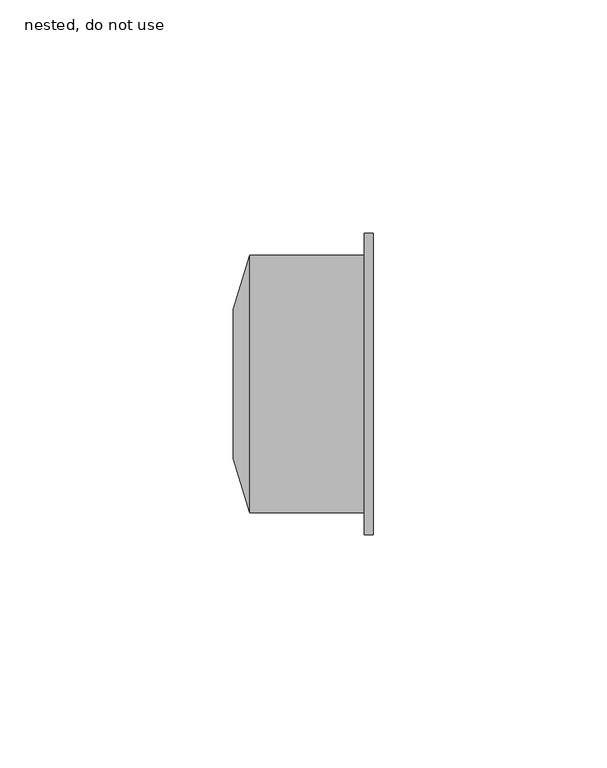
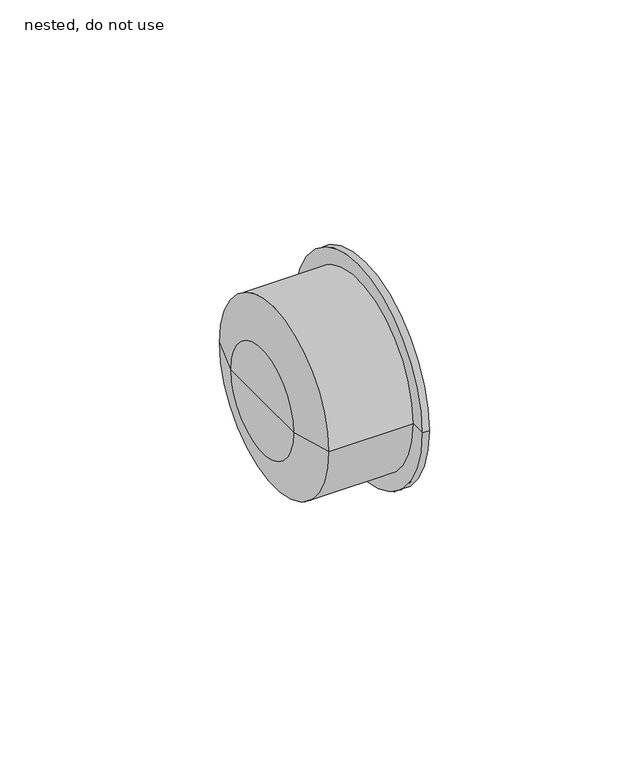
"""IFC4 building model written with IfcOpenShell, lengths in millimetres: pipe fitting geometry, ZZZ_do no use_PIF_HDPE protective cap for plugin socket -SH_Akatherm : nested, do not use."""

from ifc_helpers import new_model, si_unit, frame, origin, place, context, project, spatial, polyline, circle_curve, source, transform, mapped, element, save
from ifc_brep_helpers import plane_surface, cylinder_surface, revolved_surface, advanced_brep


def nested_do_not_use_3e3a2135(model_context):
    return source(origin(), model_context, "Body", "AdvancedBrep", [
        advanced_brep(
        [(0.0, -32.25, 0.0), (0.0, 32.25, 0.0), (2.0, 32.25, 0.0), (2.0, -32.25, 0.0), (0.0, -27.6, 0.0), (0.0, 27.6, 0.0), (-24.5, -27.6, 0.0), (-24.5, 27.6, 0.0), (-28.0, -16.0, 0.0), (-28.0, 16.0, 0.0), (-28.0, 0.0, 0.0), (2.0, 0.0, 0.0)],
        [
            (0, 1, circle_curve(frame((0.0, 0.0, 0.0), z_axis=(1.0, 0.0, 0.0), x_axis=(0.0, 1.0, 0.0)), 32.25)),
            (1, 2),
            (2, 3, circle_curve(frame((2.0, 0.0, 0.0), z_axis=(-1.0, 0.0, 0.0), x_axis=(0.0, 1.0, 0.0)), 32.25)),
            (3, 0),
            (1, 0, circle_curve(frame((0.0, 0.0, 0.0), z_axis=(1.0, 0.0, 0.0), x_axis=(0.0, 1.0, 0.0)), 32.25)),
            (3, 2, circle_curve(frame((2.0, 0.0, 0.0), z_axis=(-1.0, 0.0, 0.0), x_axis=(0.0, 1.0, 0.0)), 32.25)),
            (4, 5, circle_curve(frame((0.0, 0.0, 0.0), z_axis=(1.0, 0.0, 0.0), x_axis=(0.0, 1.0, 0.0)), 27.6)),
            (5, 1),
            (0, 4),
            (5, 4, circle_curve(frame((0.0, 0.0, 0.0), z_axis=(1.0, 0.0, 0.0), x_axis=(0.0, 1.0, 0.0)), 27.6)),
            (6, 7, circle_curve(frame((-24.5, 0.0, 0.0), z_axis=(1.0, 0.0, 0.0), x_axis=(0.0, 1.0, 0.0)), 27.6)),
            (7, 5),
            (4, 6),
            (7, 6, circle_curve(frame((-24.5, 0.0, 0.0), z_axis=(1.0, 0.0, 0.0), x_axis=(0.0, 1.0, 0.0)), 27.6)),
            (8, 9, circle_curve(frame((-28.0, 0.0, 0.0), z_axis=(1.0, 0.0, 0.0), x_axis=(0.0, 1.0, 0.0)), 16.0)),
            (9, 7),
            (6, 8),
            (9, 8, circle_curve(frame((-28.0, 0.0, 0.0), z_axis=(1.0, 0.0, 0.0), x_axis=(0.0, 1.0, 0.0)), 16.0)),
            (10, 9),
            (8, 10),
            (2, 11),
            (11, 3),
        ],
        [
            cylinder_surface(frame((177.0, 0.0, 0.0), z_axis=(-1.0, 0.0, 0.0), x_axis=(0.0, 1.0, 0.0)), 32.25),
            plane_surface(frame((0.0, 0.0, 0.0), z_axis=(-1.0, 0.0, 0.0), x_axis=(0.0, 1.0, 0.0))),
            cylinder_surface(frame((177.0, 0.0, 0.0), z_axis=(-1.0, 0.0, 0.0), x_axis=(0.0, 1.0, 0.0)), 27.6),
            revolved_surface(polyline([(-24.5, 27.6, 0.0), (-28.0, 16.0, 0.0)]), (177.0, 0.0, 0.0), (-1.0, 0.0, 0.0)),
            plane_surface(frame((-28.0, 0.0, 0.0), z_axis=(-1.0, 0.0, 0.0), x_axis=(0.0, 1.0, 0.0))),
            plane_surface(frame((2.0, 0.0, 0.0), z_axis=(1.0, 0.0, 0.0), x_axis=(0.0, 1.0, 0.0))),
        ],
        [
            (0, [[1, 2, 3, 4]]),
            (0, [[5, -4, 6, -2]]),
            (1, [[7, 8, -1, 9]]),
            (1, [[10, -9, -5, -8]]),
            (2, [[11, 12, -7, 13]]),
            (2, [[14, -13, -10, -12]]),
            (3, [[15, 16, -11, 17]]),
            (3, [[18, -17, -14, -16]]),
            (4, [[19, -15, 20]]),
            (4, [[-20, -18, -19]]),
            (5, [[-3, 21, 22]]),
            (5, [[-6, -22, -21]]),
        ],
    ),
    ])


if __name__ == "__main__":
    model = new_model("IFC4")
    model_context = context("Model", 3, world=origin())
    ifc_project = project(units=[si_unit("LENGTHUNIT", "METRE", prefix="MILLI")], contexts=[model_context])
    site = spatial("IfcSite", under=ifc_project)
    building = spatial("IfcBuilding", under=site)
    placement = place(None, origin())
    nested_do_not_use_shape = nested_do_not_use_3e3a2135(model_context)
    element("IfcPipeFitting", 1, ObjectType="ZZZ_do no use_PIF_HDPE protective cap for plugin socket -SH_Akatherm : nested, do not use", at=placement, inside=building, context=model_context, shape_type="MappedRepresentation", body=[
        mapped(nested_do_not_use_shape, transform((0.0, 0.0, 0.0), x_axis=(1.0, 0.0, 0.0), y_axis=(0.0, 1.0, 0.0), z_axis=(0.0, 0.0, 1.0))),
    ])
    save(model, "model.ifc")
